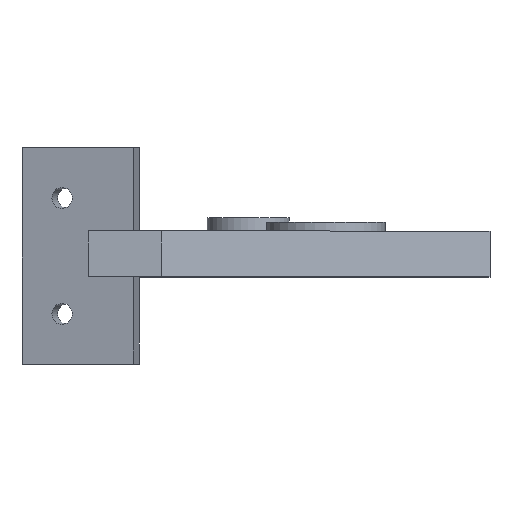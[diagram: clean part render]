
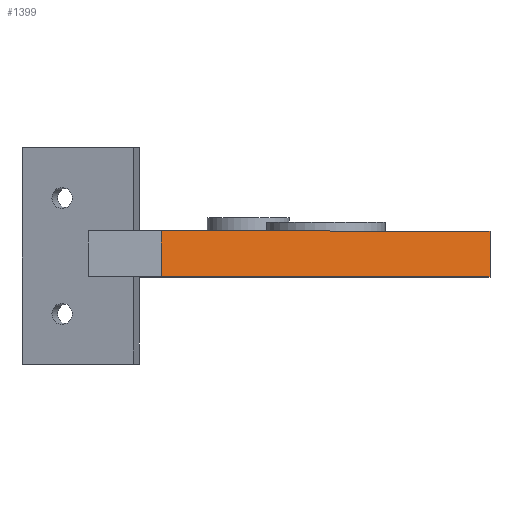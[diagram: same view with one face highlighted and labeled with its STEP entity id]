
A CAD part, top view. The second image highlights one B-rep face of the part: STEP entity #1399.
In plain terms, the highlighted planar face has unit normal (0.486, 0, 0.874).
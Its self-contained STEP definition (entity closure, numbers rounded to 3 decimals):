
#280 = PLANE('',#281);
#281 = AXIS2_PLACEMENT_3D('',#282,#283,#284);
#282 = CARTESIAN_POINT('',(56.46,93.2,-226.401));
#283 = DIRECTION('',(0.,1.,0.));
#284 = DIRECTION('',(0.,-0.,1.));
#332 = PLANE('',#333);
#333 = AXIS2_PLACEMENT_3D('',#334,#335,#336);
#334 = CARTESIAN_POINT('',(56.46,103.2,-226.401));
#335 = DIRECTION('',(0.,1.,0.));
#336 = DIRECTION('',(0.,-0.,1.));
#743 = VERTEX_POINT('',#744);
#744 = CARTESIAN_POINT('',(30.,103.2,-172.));
#758 = PLANE('',#759);
#759 = AXIS2_PLACEMENT_3D('',#760,#761,#762);
#760 = CARTESIAN_POINT('',(14.,93.2,-172.));
#761 = DIRECTION('',(0.,0.,-1.));
#762 = DIRECTION('',(1.,0.,0.));
#770 = EDGE_CURVE('',#743,#771,#773,.T.);
#771 = VERTEX_POINT('',#772);
#772 = CARTESIAN_POINT('',(102.,103.2,-212.));
#773 = SURFACE_CURVE('',#774,(#778,#785),.PCURVE_S1.);
#774 = LINE('',#775,#776);
#775 = CARTESIAN_POINT('',(30.,103.2,-172.));
#776 = VECTOR('',#777,1.);
#777 = DIRECTION('',(0.874,0.,-0.486));
#778 = PCURVE('',#332,#779);
#779 = DEFINITIONAL_REPRESENTATION('',(#780),#784);
#780 = LINE('',#781,#782);
#781 = CARTESIAN_POINT('',(54.401,-26.46));
#782 = VECTOR('',#783,1.);
#783 = DIRECTION('',(-0.486,0.874));
#784 = ( GEOMETRIC_REPRESENTATION_CONTEXT(2) 
PARAMETRIC_REPRESENTATION_CONTEXT() REPRESENTATION_CONTEXT('2D SPACE',''
  ) );
#785 = PCURVE('',#786,#791);
#786 = PLANE('',#787);
#787 = AXIS2_PLACEMENT_3D('',#788,#789,#790);
#788 = CARTESIAN_POINT('',(30.,93.2,-172.));
#789 = DIRECTION('',(-0.486,-0.,-0.874));
#790 = DIRECTION('',(0.874,0.,-0.486));
#791 = DEFINITIONAL_REPRESENTATION('',(#792),#796);
#792 = LINE('',#793,#794);
#793 = CARTESIAN_POINT('',(0.,-10.));
#794 = VECTOR('',#795,1.);
#795 = DIRECTION('',(1.,0.));
#796 = ( GEOMETRIC_REPRESENTATION_CONTEXT(2) 
PARAMETRIC_REPRESENTATION_CONTEXT() REPRESENTATION_CONTEXT('2D SPACE',''
  ) );
#814 = PLANE('',#815);
#815 = AXIS2_PLACEMENT_3D('',#816,#817,#818);
#816 = CARTESIAN_POINT('',(102.,93.2,-212.));
#817 = DIRECTION('',(-1.,-0.,-0.));
#818 = DIRECTION('',(0.,0.,-1.));
#1030 = VERTEX_POINT('',#1031);
#1031 = CARTESIAN_POINT('',(30.,93.2,-172.));
#1052 = EDGE_CURVE('',#1030,#1053,#1055,.T.);
#1053 = VERTEX_POINT('',#1054);
#1054 = CARTESIAN_POINT('',(102.,93.2,-212.));
#1055 = SURFACE_CURVE('',#1056,(#1060,#1067),.PCURVE_S1.);
#1056 = LINE('',#1057,#1058);
#1057 = CARTESIAN_POINT('',(30.,93.2,-172.));
#1058 = VECTOR('',#1059,1.);
#1059 = DIRECTION('',(0.874,0.,-0.486));
#1060 = PCURVE('',#280,#1061);
#1061 = DEFINITIONAL_REPRESENTATION('',(#1062),#1066);
#1062 = LINE('',#1063,#1064);
#1063 = CARTESIAN_POINT('',(54.401,-26.46));
#1064 = VECTOR('',#1065,1.);
#1065 = DIRECTION('',(-0.486,0.874));
#1066 = ( GEOMETRIC_REPRESENTATION_CONTEXT(2) 
PARAMETRIC_REPRESENTATION_CONTEXT() REPRESENTATION_CONTEXT('2D SPACE',''
  ) );
#1067 = PCURVE('',#786,#1068);
#1068 = DEFINITIONAL_REPRESENTATION('',(#1069),#1073);
#1069 = LINE('',#1070,#1071);
#1070 = CARTESIAN_POINT('',(0.,0.));
#1071 = VECTOR('',#1072,1.);
#1072 = DIRECTION('',(1.,0.));
#1073 = ( GEOMETRIC_REPRESENTATION_CONTEXT(2) 
PARAMETRIC_REPRESENTATION_CONTEXT() REPRESENTATION_CONTEXT('2D SPACE',''
  ) );
#1376 = EDGE_CURVE('',#1053,#771,#1377,.T.);
#1377 = SURFACE_CURVE('',#1378,(#1382,#1389),.PCURVE_S1.);
#1378 = LINE('',#1379,#1380);
#1379 = CARTESIAN_POINT('',(102.,93.2,-212.));
#1380 = VECTOR('',#1381,1.);
#1381 = DIRECTION('',(-0.,1.,-0.));
#1382 = PCURVE('',#814,#1383);
#1383 = DEFINITIONAL_REPRESENTATION('',(#1384),#1388);
#1384 = LINE('',#1385,#1386);
#1385 = CARTESIAN_POINT('',(0.,0.));
#1386 = VECTOR('',#1387,1.);
#1387 = DIRECTION('',(0.,-1.));
#1388 = ( GEOMETRIC_REPRESENTATION_CONTEXT(2) 
PARAMETRIC_REPRESENTATION_CONTEXT() REPRESENTATION_CONTEXT('2D SPACE',''
  ) );
#1389 = PCURVE('',#786,#1390);
#1390 = DEFINITIONAL_REPRESENTATION('',(#1391),#1395);
#1391 = LINE('',#1392,#1393);
#1392 = CARTESIAN_POINT('',(82.365,0.));
#1393 = VECTOR('',#1394,1.);
#1394 = DIRECTION('',(0.,-1.));
#1395 = ( GEOMETRIC_REPRESENTATION_CONTEXT(2) 
PARAMETRIC_REPRESENTATION_CONTEXT() REPRESENTATION_CONTEXT('2D SPACE',''
  ) );
#1399 = ADVANCED_FACE('',(#1400),#786,.F.);
#1400 = FACE_BOUND('',#1401,.F.);
#1401 = EDGE_LOOP('',(#1402,#1423,#1424,#1425));
#1402 = ORIENTED_EDGE('',*,*,#1403,.T.);
#1403 = EDGE_CURVE('',#1030,#743,#1404,.T.);
#1404 = SURFACE_CURVE('',#1405,(#1409,#1416),.PCURVE_S1.);
#1405 = LINE('',#1406,#1407);
#1406 = CARTESIAN_POINT('',(30.,93.2,-172.));
#1407 = VECTOR('',#1408,1.);
#1408 = DIRECTION('',(-0.,1.,-0.));
#1409 = PCURVE('',#786,#1410);
#1410 = DEFINITIONAL_REPRESENTATION('',(#1411),#1415);
#1411 = LINE('',#1412,#1413);
#1412 = CARTESIAN_POINT('',(0.,0.));
#1413 = VECTOR('',#1414,1.);
#1414 = DIRECTION('',(0.,-1.));
#1415 = ( GEOMETRIC_REPRESENTATION_CONTEXT(2) 
PARAMETRIC_REPRESENTATION_CONTEXT() REPRESENTATION_CONTEXT('2D SPACE',''
  ) );
#1416 = PCURVE('',#758,#1417);
#1417 = DEFINITIONAL_REPRESENTATION('',(#1418),#1422);
#1418 = LINE('',#1419,#1420);
#1419 = CARTESIAN_POINT('',(16.,0.));
#1420 = VECTOR('',#1421,1.);
#1421 = DIRECTION('',(0.,-1.));
#1422 = ( GEOMETRIC_REPRESENTATION_CONTEXT(2) 
PARAMETRIC_REPRESENTATION_CONTEXT() REPRESENTATION_CONTEXT('2D SPACE',''
  ) );
#1423 = ORIENTED_EDGE('',*,*,#770,.T.);
#1424 = ORIENTED_EDGE('',*,*,#1376,.F.);
#1425 = ORIENTED_EDGE('',*,*,#1052,.F.);
